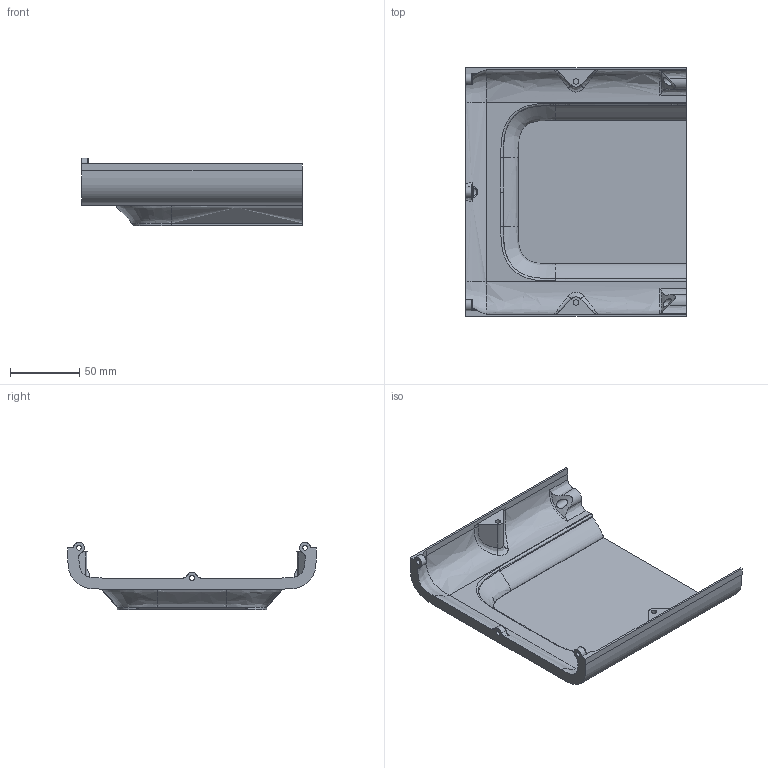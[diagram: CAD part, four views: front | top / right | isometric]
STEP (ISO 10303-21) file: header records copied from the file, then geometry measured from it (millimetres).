
FILE_DESCRIPTION(/* description */ (''),/* implementation_level */ '2;1');
FILE_NAME(/* name */ 'BOTTOM SHELL BACK.step',/* time_stamp */ '2024-02-28T16:26:22Z',/* author */ (''),/* organization */ (''),/* preprocessor_version */ 'ST-DEVELOPER v20',/* originating_system */ 'Autodesk Translation Framework v12.20.1.177',/* authorisation */ '');
FILE_SCHEMA (('AUTOMOTIVE_DESIGN { 1 0 10303 214 3 1 1 }'));
Length unit declared in the file: millimetre
Products named in the file (1): BOTTOM SHELL BACK
Bounding box: 160 x 180 x 48.9 mm (x, y, z)
Volume: 85097.8 mm3; surface area: 80985.5 mm2
Topology: 1 solids, 1 shells, 148 faces, 426 edges, 280 vertices
Faces by surface type: bspline 75, plane 44, cylinder 23, torus 6
Full cylindrical faces by diameter (mm): 3.5 x5, 4 x2, 6 x2
Entity records: 11012 total; most frequent: CARTESIAN_POINT 7740, ORIENTED_EDGE 844, EDGE_CURVE 422, DIRECTION 404, VERTEX_POINT 280, B_SPLINE_CURVE_WITH_KNOTS 235, EDGE_LOOP 162, AXIS2_PLACEMENT_3D 153
